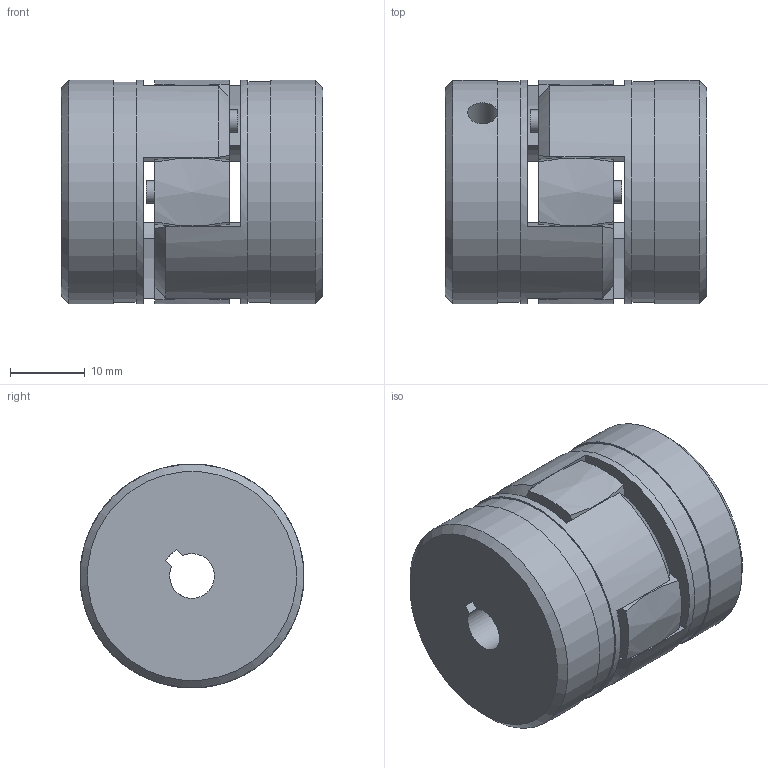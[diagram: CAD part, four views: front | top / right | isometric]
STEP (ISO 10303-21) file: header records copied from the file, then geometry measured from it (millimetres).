
FILE_DESCRIPTION(/* description */ (''),/* implementation_level */ '2;1');
FILE_NAME(/* name */ 'RP14-6-PF-6-PF',/* time_stamp */ '2024-01-05T15:27:53+01:00',/* author */ ('M. Horlacher'),/* organization */ (''),/* preprocessor_version */ 'ST-DEVELOPER v20',/* originating_system */ 'Autodesk Inventor 2024',/* authorisation */ '');
FILE_SCHEMA (('AUTOMOTIVE_DESIGN { 1 0 10303 214 3 1 1 }'));
Length unit declared in the file: millimetre
Products named in the file (4): RP STEP; RP14-Stern-92Shore; RP14-Nabe_2; RP14-Nabe_2_1
Assembly tree (3 placements, depth 2):
  RP STEP
    RP14-Stern-92Shore
    RP14-Nabe_2
    RP14-Nabe_2_1
Bounding box: 35 x 30 x 30 mm (x, y, z)
Volume: 20685.1 mm3; surface area: 9151.1 mm2
Topology: 3 solids, 3 shells, 79 faces, 209 edges, 138 vertices
Faces by surface type: plane 30, cylinder 27, bspline 16, cone 6
Full cylindrical faces by diameter (mm): 3 x4, 4 x2, 10 x1, 29.6 x2, 30 x4
Entity records: 3195 total; most frequent: CARTESIAN_POINT 1133, ORIENTED_EDGE 422, DIRECTION 375, EDGE_CURVE 211, AXIS2_PLACEMENT_3D 152, VERTEX_POINT 138, EDGE_LOOP 93, CIRCLE 82
